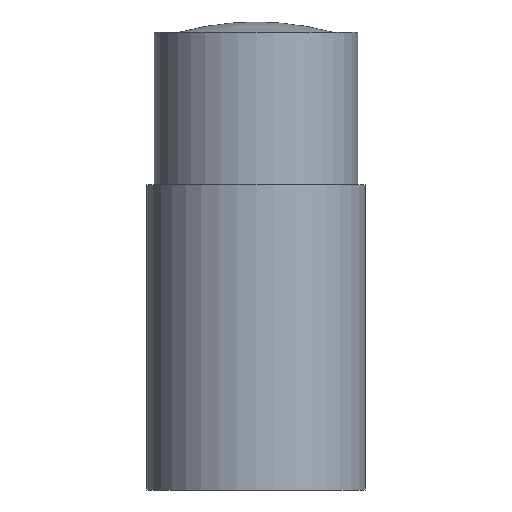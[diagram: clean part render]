
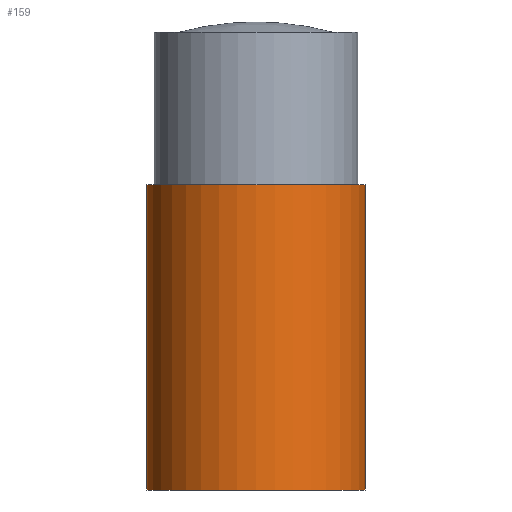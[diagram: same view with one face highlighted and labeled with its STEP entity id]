
A CAD part, left-side view. The second image highlights one B-rep face of the part: STEP entity #159.
In plain terms, the highlighted cylindrical face has radius 2.15 mm (diameter 4.3 mm), a partial arc.
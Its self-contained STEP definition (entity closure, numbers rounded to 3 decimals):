
#12 = VERTEX_POINT ( 'NONE', #236 ) ;
#26 = EDGE_CURVE ( 'NONE', #64, #61, #116, .T. ) ;
#58 = VERTEX_POINT ( 'NONE', #223 ) ;
#60 = EDGE_CURVE ( 'NONE', #12, #61, #222, .T. ) ;
#61 = VERTEX_POINT ( 'NONE', #218 ) ;
#64 = VERTEX_POINT ( 'NONE', #217 ) ;
#66 = EDGE_CURVE ( 'NONE', #58, #64, #172, .T. ) ;
#67 = ORIENTED_EDGE ( 'NONE', *, *, #60, .F. ) ;
#68 = ORIENTED_EDGE ( 'NONE', *, *, #135, .F. ) ;
#69 = ORIENTED_EDGE ( 'NONE', *, *, #66, .T. ) ;
#70 = ORIENTED_EDGE ( 'NONE', *, *, #26, .T. ) ;
#112 = DIRECTION ( 'NONE',  ( 0., 0., 1. ) ) ;
#113 = DIRECTION ( 'NONE',  ( 0., 1., 0. ) ) ;
#114 = CARTESIAN_POINT ( 'NONE',  ( 0., 0., 0. ) ) ;
#115 = AXIS2_PLACEMENT_3D ( 'NONE', #114, #113, #112 ) ;
#116 = CIRCLE ( 'NONE', #115, 2.15 ) ;
#135 = EDGE_CURVE ( 'NONE', #58, #12, #256, .T. ) ;
#158 = EDGE_LOOP ( 'NONE', ( #67, #68, #69, #70 ) ) ;
#159 = ADVANCED_FACE ( 'NONE', ( #245 ), #272, .T. ) ;
#169 = DIRECTION ( 'NONE',  ( 0., -1., 0. ) ) ;
#170 = VECTOR ( 'NONE', #169, 1000. ) ;
#171 = CARTESIAN_POINT ( 'NONE',  ( 0., 6., -2.15 ) ) ;
#172 = LINE ( 'NONE', #171, #170 ) ;
#217 = CARTESIAN_POINT ( 'NONE',  ( 0., 0., -2.15 ) ) ;
#218 = CARTESIAN_POINT ( 'NONE',  ( 0., 0., 2.15 ) ) ;
#219 = DIRECTION ( 'NONE',  ( 0., -1., 0. ) ) ;
#220 = VECTOR ( 'NONE', #219, 1000. ) ;
#221 = CARTESIAN_POINT ( 'NONE',  ( 0., 6., 2.15 ) ) ;
#222 = LINE ( 'NONE', #221, #220 ) ;
#223 = CARTESIAN_POINT ( 'NONE',  ( 0., 6., -2.15 ) ) ;
#236 = CARTESIAN_POINT ( 'NONE',  ( 0., 6., 2.15 ) ) ;
#245 = FACE_OUTER_BOUND ( 'NONE', #158, .T. ) ;
#251 = DIRECTION ( 'NONE',  ( 0., 0., -1. ) ) ;
#252 = DIRECTION ( 'NONE',  ( 0., 0., 1. ) ) ;
#253 = DIRECTION ( 'NONE',  ( 0., 1., 0. ) ) ;
#254 = CARTESIAN_POINT ( 'NONE',  ( 0., 6., 0. ) ) ;
#255 = AXIS2_PLACEMENT_3D ( 'NONE', #254, #253, #252 ) ;
#256 = CIRCLE ( 'NONE', #255, 2.15 ) ;
#269 = DIRECTION ( 'NONE',  ( 0., -1., 0. ) ) ;
#270 = CARTESIAN_POINT ( 'NONE',  ( 0., 6., 0. ) ) ;
#271 = AXIS2_PLACEMENT_3D ( 'NONE', #270, #269, #251 ) ;
#272 = CYLINDRICAL_SURFACE ( 'NONE', #271, 2.15 ) ;
